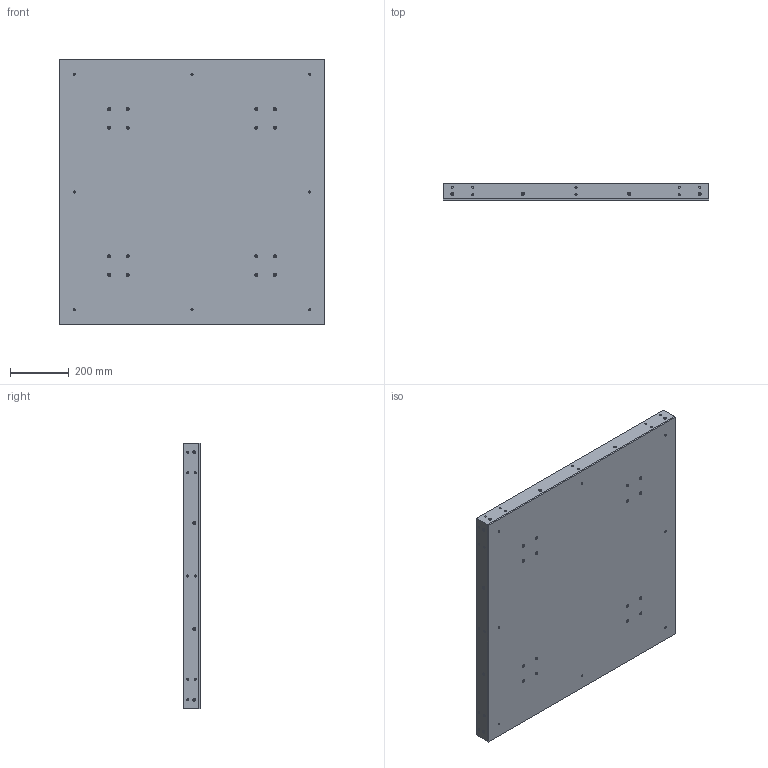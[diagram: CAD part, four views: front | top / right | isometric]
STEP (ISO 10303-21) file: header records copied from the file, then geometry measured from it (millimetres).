
FILE_DESCRIPTION (( 'STEP AP203' ), '1' );
FILE_NAME ('PVLT-9.STEP', '2016-01-08T02:31:51', ( '' ), ( '' ), 'SwSTEP 2.0', 'SolidWorks 2013', '' );
FILE_SCHEMA (( 'CONFIG_CONTROL_DESIGN' ));
Length unit declared in the file: millimetre
Products named in the file (3): PVLT-9-Part; cross recessed countersunk head screw_jis_JIS 1111 Cross recessed countersunk head screw - M5 x 8 - Z --8N; PVLT-9
Assembly tree (33 placements, depth 2):
  PVLT-9
    PVLT-9-Part
    cross recessed countersunk head screw_jis_JIS 1111 Cross recessed countersunk head screw - M5 x 8 - Z --8N  x32
Bounding box: 900 x 59 x 900 mm (x, y, z)
Volume: 13202231.8 mm3; surface area: 4454063 mm2
Topology: 116 solids, 116 shells, 2069 faces, 5012 edges, 3087 vertices
Faces by surface type: plane 794, cylinder 723, cone 326, sphere 162, torus 64
Entity records: 31835 total; most frequent: DIRECTION 6088, CARTESIAN_POINT 4993, ORIENTED_EDGE 4652, AXIS2_PLACEMENT_3D 2657, EDGE_CURVE 2326, CIRCLE 1544, VERTEX_POINT 1530, EDGE_LOOP 1502
